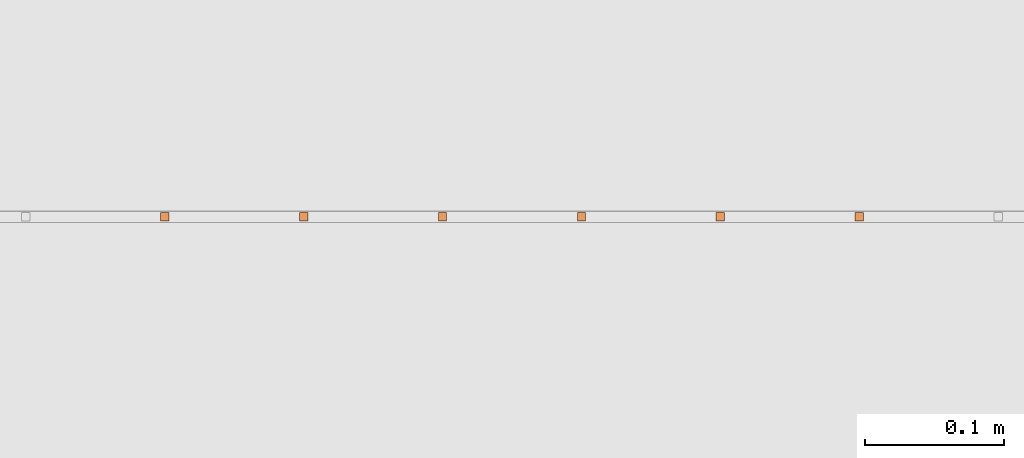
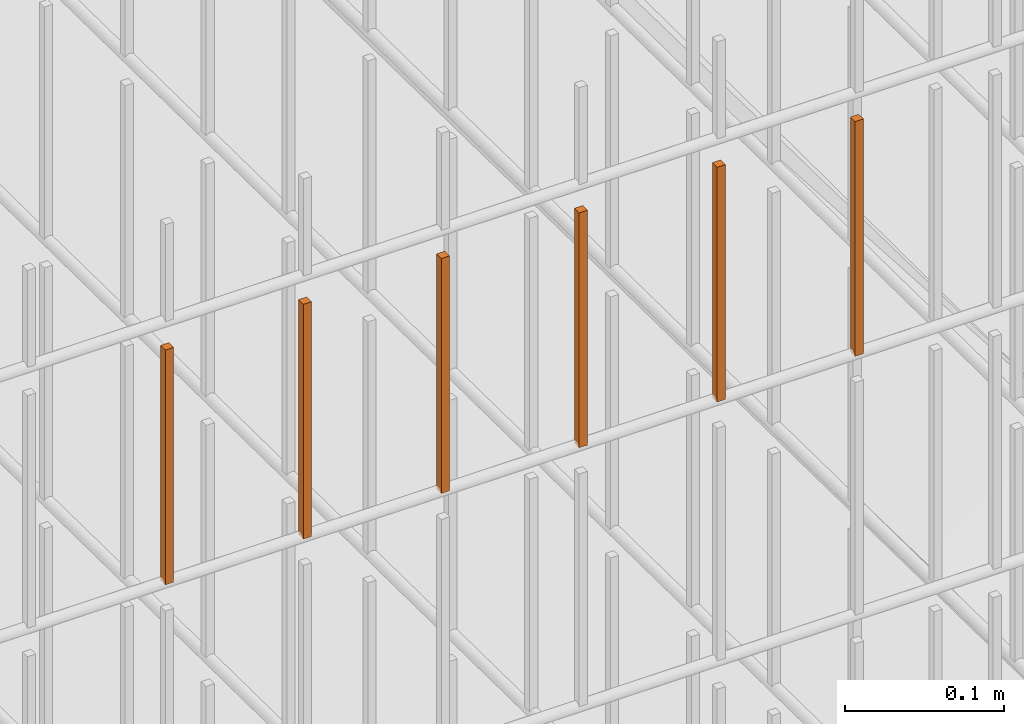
# One storey, part 251 of 1809: 6 proxies, 1 element without a shape of its own.
"""IFC2X3 building model written with IfcOpenShell, lengths in millimetres."""

import ifcopenshell
import ifcopenshell.guid

model = None  # the IFC model being written
_history = None  # IfcOwnerHistory: only IFC2X3 demands one
_inside = {}  # id of a spatial element -> (the spatial element, [elements in it])
_under = {}  # id of a project, library or spatial element -> (it, [spatial elements below it])
_declared = {}  # id of a project -> (the project, [libraries it declares])
_typed = {}  # id of a type object -> (the type object, [elements of that type])
_made_of = {}  # id of a material, layer set ... -> (it, [elements and type objects made of it])


def new_model(schema):
    """Start an empty IFC model of exactly this schema.

    Asked for "IFC4X3", IfcOpenShell would pick the latest addendum, in which some entities
    have other attributes; the version numbers below select the first issue.
    IFC2X3 requires an IfcOwnerHistory on every rooted entity: one is made here for all.
    """
    global model, _history
    if schema == "IFC4X3":
        model = ifcopenshell.file(schema_version=(4, 3, 0, 0))
    else:
        model = ifcopenshell.file(schema=schema)
    _inside.clear()
    _under.clear()
    _declared.clear()
    _typed.clear()
    _made_of.clear()
    _history = None
    if model.schema == "IFC2X3":
        org = make("IfcOrganization", Name="unknown")
        user = make(
            "IfcPersonAndOrganization",
            ThePerson=make("IfcPerson", FamilyName="unknown"),
            TheOrganization=org,
        )
        app = make(
            "IfcApplication",
            ApplicationDeveloper=org,
            Version="unknown",
            ApplicationFullName="unknown",
            ApplicationIdentifier="unknown",
        )
        _history = make(
            "IfcOwnerHistory",
            OwningUser=user,
            OwningApplication=app,
            ChangeAction="ADDED",
            CreationDate=0,
        )
    return model


def make(cls, **values):
    """One entity of the class cls with the attributes given. An attribute that is None is left unset."""
    return model.create_entity(
        cls, **{name: value for name, value in values.items() if value is not None}
    )


def entity(cls, *values):
    """Any entity or typed value of the class cls, its attributes in the order of the schema. None: left unset."""
    e = model.create_entity(cls)
    for i, value in enumerate(values):
        if value is not None:
            e[i] = value
    return e


def rooted(cls, **values):
    """An entity with a GlobalId (a new one), such as an element, a storey or a relation."""
    return make(cls, GlobalId=ifcopenshell.guid.new(), OwnerHistory=_history, **values)


def si_unit(unit_type, name, prefix=None):
    """IfcSIUnit, for example si_unit("LENGTHUNIT", "METRE", prefix="MILLI")."""
    return make("IfcSIUnit", UnitType=unit_type, Prefix=prefix, Name=name)


def converted_unit(unit_type, name, factor, base, dimensions=None, offset=None):
    """IfcConversionBasedUnit, such as the inch: factor (a typed value) times the base unit."""
    return make(
        "IfcConversionBasedUnit"
        if offset is None
        else "IfcConversionBasedUnitWithOffset",
        ConversionOffset=offset,
        Dimensions=None
        if dimensions is None
        else entity("IfcDimensionalExponents", *dimensions),
        UnitType=unit_type,
        Name=name,
        ConversionFactor=make(
            "IfcMeasureWithUnit", ValueComponent=factor, UnitComponent=base
        ),
    )


def derived_unit(unit_type, elements):
    """IfcDerivedUnit: a product of units, each with its exponent."""
    return make(
        "IfcDerivedUnit",
        Elements=[
            make("IfcDerivedUnitElement", Unit=unit, Exponent=power)
            for unit, power in elements
        ],
        UnitType=unit_type,
    )


def money_unit(currency):
    """IfcMonetaryUnit."""
    return make("IfcMonetaryUnit", Currency=currency)


def assignment(units):
    """IfcUnitAssignment: the units of a project."""
    return None if units is None else make("IfcUnitAssignment", Units=units)


def point(xyz):
    """IfcCartesianPoint."""
    return None if xyz is None else make("IfcCartesianPoint", Coordinates=xyz)


def direction(xyz):
    """IfcDirection."""
    return None if xyz is None else make("IfcDirection", DirectionRatios=xyz)


def frame(location, z_axis=None, x_axis=None):
    """IfcAxis2Placement3D, a coordinate frame: its origin and axes. An axis left out is left unset."""
    return make(
        "IfcAxis2Placement3D",
        Location=point(location),
        Axis=direction(z_axis),
        RefDirection=direction(x_axis),
    )


def origin_with_axes():
    """The frame at (0, 0, 0) with the z axis (0, 0, 1) and the x axis (1, 0, 0) written out."""
    return frame((0.0, 0.0, 0.0), z_axis=(0.0, 0.0, 1.0), x_axis=(1.0, 0.0, 0.0))


def place(relative_to, where):
    """IfcLocalPlacement: puts the frame where relative to a parent placement (None: the world)."""
    return make(
        "IfcLocalPlacement", PlacementRelTo=relative_to, RelativePlacement=where
    )


def context(
    kind, dimensions, precision=None, world=None, true_north=None, identifier=None
):
    """IfcGeometricRepresentationContext, for example the 3D "Model" context."""
    return make(
        "IfcGeometricRepresentationContext",
        ContextIdentifier=identifier,
        ContextType=kind,
        CoordinateSpaceDimension=dimensions,
        Precision=precision,
        WorldCoordinateSystem=world,
        TrueNorth=true_north,
    )


def subcontext(parent, identifier, kind, view, scale=None):
    """IfcGeometricRepresentationSubContext, for example "Body" below "Model"."""
    return make(
        "IfcGeometricRepresentationSubContext",
        ContextIdentifier=identifier,
        ContextType=kind,
        ParentContext=parent,
        TargetScale=scale,
        TargetView=view,
    )


def project(units=None, contexts=None):
    """IfcProject with its units and contexts."""
    return rooted(
        "IfcProject",
        Name="project",
        RepresentationContexts=contexts,
        UnitsInContext=assignment(units),
    )


def spatial(cls, under=None, at=None, **own):
    """A site, building, storey or space (cls), placed at a placement, below another one or the project."""
    s = rooted(cls, ObjectPlacement=at, **own)
    if under is not None:
        _under.setdefault(under.id(), (under, []))[1].append(s)
    return s


def faces_of(points, faces, orient=None, outer=None):
    """IfcFace entities. A face is a list of loops; a loop is a list of indices into points, from 0.

    orient and outer hold one flag for each loop. By default every Orientation is true, the
    first loop of a face is its IfcFaceOuterBound and the others are IfcFaceBound.
    """
    made = []
    for i, loops in enumerate(faces):
        bounds = []
        for j, loop in enumerate(loops):
            is_outer = j == 0 if outer is None else outer[i][j]
            bounds.append(
                make(
                    "IfcFaceOuterBound" if is_outer else "IfcFaceBound",
                    Bound=make("IfcPolyLoop", Polygon=[points[k] for k in loop]),
                    Orientation=True if orient is None else orient[i][j],
                )
            )
        made.append(make("IfcFace", Bounds=bounds))
    return made


def faceted_brep(points, faces, orient=None, outer=None, voids=None):
    """IfcFacetedBrep: a solid bounded by flat faces; with voids (closed shells), ...WithVoids."""
    shared = [point(p) for p in points]
    hull = make("IfcClosedShell", CfsFaces=faces_of(shared, faces, orient, outer))
    if voids is None:
        return make("IfcFacetedBrep", Outer=hull)
    return make(
        "IfcFacetedBrepWithVoids",
        Outer=hull,
        Voids=[
            make(cls, CfsFaces=faces_of(shared, fs, o, b)) for cls, fs, o, b in voids
        ],
    )


def shape(context_of_items, identifier, shape_type, items):
    """IfcShapeRepresentation: the items that make up one representation, for example the "Body"."""
    return make(
        "IfcShapeRepresentation",
        ContextOfItems=context_of_items,
        RepresentationIdentifier=identifier,
        RepresentationType=shape_type,
        Items=items,
    )


def source(mapping_origin, context_of_items, identifier, shape_type, items):
    """IfcRepresentationMap: a shape defined once, which mapped items show again and again."""
    return make(
        "IfcRepresentationMap",
        MappingOrigin=mapping_origin,
        MappedRepresentation=shape(context_of_items, identifier, shape_type, items),
    )


def transform(
    local_origin,
    x_axis=None,
    y_axis=None,
    z_axis=None,
    scale=None,
    scale2=None,
    scale3=None,
    uniform=True,
):
    """IfcCartesianTransformationOperator3D, or its non-uniform kind. x_axis, y_axis, z_axis: its Axis1, 2, 3."""
    if uniform:
        return make(
            "IfcCartesianTransformationOperator3D",
            Axis1=direction(x_axis),
            Axis2=direction(y_axis),
            LocalOrigin=point(local_origin),
            Scale=scale,
            Axis3=direction(z_axis),
        )
    return make(
        "IfcCartesianTransformationOperator3DnonUniform",
        Axis1=direction(x_axis),
        Axis2=direction(y_axis),
        LocalOrigin=point(local_origin),
        Scale=scale,
        Axis3=direction(z_axis),
        Scale2=scale2,
        Scale3=scale3,
    )


def mapped(mapping_source, mapping_target):
    """IfcMappedItem: shows the shape of a source again, moved by a transform."""
    return make(
        "IfcMappedItem", MappingSource=mapping_source, MappingTarget=mapping_target
    )


def material(Name=None, Category=None):
    """IfcMaterial."""
    return make("IfcMaterial", Name=Name, Category=Category)


def made_of(thing, what):
    """Note that an element or type object is made of a material, layer set ...; save() writes the relation."""
    if what is not None:
        _made_of.setdefault(what.id(), (what, []))[1].append(thing)
    return thing


def type_object(cls, material=None, **own):
    """A type object (cls), such as IfcWallType, which elements share."""
    return made_of(rooted(cls, **own), material)


def element(
    cls,
    number,
    at=None,
    inside=None,
    cuts=None,
    type_object=None,
    material=None,
    context=None,
    identifier="Body",
    shape_type=None,
    held_by="IfcProductDefinitionShape",
    body=None,
    shapes=None,
    **own,
):
    """One element of the class cls, such as IfcWall. Its Tag is "e" and its number.

    at: its placement. inside: the storey or other place that contains it. cuts: it is an
    opening in that element (IfcRelVoidsElement). A single representation is given by context,
    identifier, shape_type and body (its items); several are given by shapes. held_by: the class
    of the entity that holds the representations. save() writes the other relations.
    """
    e = rooted(cls, Tag="e%d" % number, ObjectPlacement=at, **own)
    if body is not None:
        shapes = [shape(context, identifier, shape_type, body)]
    if shapes is not None:
        e.Representation = make(held_by, Representations=shapes)
    if inside is not None:
        _inside.setdefault(inside.id(), (inside, []))[1].append(e)
    if cuts is not None:
        rooted(
            "IfcRelVoidsElement", RelatingBuildingElement=cuts, RelatedOpeningElement=e
        )
    if type_object is not None:
        _typed.setdefault(type_object.id(), (type_object, []))[1].append(e)
    return made_of(e, material)


def aggregate(whole, parts):
    """IfcRelAggregates: a whole, such as a stair, and the parts it consists of."""
    return rooted("IfcRelAggregates", RelatingObject=whole, RelatedObjects=parts)


def save(model, path):
    """Write the relations noted so far, then the file.

    IfcRelAggregates (storeys below a building ...), IfcRelContainedInSpatialStructure (elements
    in a storey), IfcRelDefinesByType, IfcRelAssociatesMaterial and IfcRelDeclares: one each for
    every whole, place, type object, material and project.
    """
    for whole, parts in _under.values():
        aggregate(whole, parts)
    for where, things in _inside.values():
        rooted(
            "IfcRelContainedInSpatialStructure",
            RelatedElements=things,
            RelatingStructure=where,
        )
    for kind, things in _typed.values():
        rooted("IfcRelDefinesByType", RelatedObjects=things, RelatingType=kind)
    for what, things in _made_of.values():
        rooted("IfcRelAssociatesMaterial", RelatedObjects=things, RelatingMaterial=what)
    for by, libraries in _declared.values():
        rooted("IfcRelDeclares", RelatingContext=by, RelatedDefinitions=libraries)
    model.write(path)


model = new_model("IFC2X3")

# Units and contexts
model_context = context("Model", 3, precision=0.01, world=origin_with_axes(), true_north=direction((0.0, 1.0)))
body_context = subcontext(model_context, "Body", "Model", "MODEL_VIEW")
ifc_project = project(units=[si_unit("LENGTHUNIT", "METRE", prefix="MILLI"), si_unit("AREAUNIT", "SQUARE_METRE"), si_unit("VOLUMEUNIT", "CUBIC_METRE"), converted_unit("PLANEANGLEUNIT", "DEGREE", entity("IfcPlaneAngleMeasure", 0.0174532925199), si_unit("PLANEANGLEUNIT", "RADIAN"), dimensions=[0, 0, 0, 0, 0, 0, 0]), si_unit("SOLIDANGLEUNIT", "STERADIAN"), money_unit("EUR"), converted_unit("TIMEUNIT", "Year", entity("IfcTimeMeasure", 31556926.0), si_unit("TIMEUNIT", "SECOND"), dimensions=[0, 0, 1, 0, 0, 0, 0]), si_unit("MASSUNIT", "GRAM", prefix="KILO"), si_unit("THERMODYNAMICTEMPERATUREUNIT", "DEGREE_CELSIUS"), si_unit("LUMINOUSINTENSITYUNIT", "LUMEN"), si_unit("ENERGYUNIT", "JOULE", prefix="MEGA"), derived_unit("THERMALCONDUCTANCEUNIT", [(si_unit("POWERUNIT", "WATT"), 1), (si_unit("LENGTHUNIT", "METRE"), -1), (si_unit("THERMODYNAMICTEMPERATUREUNIT", "KELVIN"), -1)]), derived_unit("SPECIFICHEATCAPACITYUNIT", [(si_unit("ENERGYUNIT", "JOULE"), 1), (si_unit("MASSUNIT", "GRAM", prefix="KILO"), -1), (si_unit("THERMODYNAMICTEMPERATUREUNIT", "KELVIN"), -1)]), derived_unit("MASSDENSITYUNIT", [(si_unit("MASSUNIT", "GRAM", prefix="KILO"), 1), (si_unit("VOLUMEUNIT", "CUBIC_METRE"), -1)])], contexts=[model_context])

# Site, building, storey
site_placement = place(None, origin_with_axes())
site = spatial("IfcSite", under=ifc_project, at=site_placement, Name="Politse- ja Piirivalveameti ning Päästeameti ühishoone", CompositionType="ELEMENT")
building_placement = place(site_placement, origin_with_axes())
building = spatial("IfcBuilding", under=site, at=building_placement, Name="Politse- ja Piirivalveameti ning Päästeameti ühishoone", CompositionType="ELEMENT")
storey_placement = place(building_placement, origin_with_axes())
storey = spatial("IfcBuildingStorey", under=building, at=storey_placement, Name="Esimene korrus", CompositionType="ELEMENT", Elevation=0.0)

# Proxies
building_element_proxy_type_1 = type_object("IfcBuildingElementProxyType", Name="Railing Type", PredefinedType="NOTDEFINED")
proxy_1_placement = place(storey_placement, frame((-16775.8601056, 25156.7555964, 0.0), z_axis=(0.0, 0.0, 1.0), x_axis=(1.0, 0.0, 0.0)))
proxy_1 = element("IfcBuildingElementProxy", 1, at=proxy_1_placement, inside=storey, type_object=building_element_proxy_type_1, Name="KENNELI PIIRE")
ifc_material = material(Name="Teras - Konstruktsioon")
building_element_proxy_type_2 = type_object("IfcBuildingElementProxyType", Name="IfcBuildingElementProxy", PredefinedType="NOTDEFINED")
shared_shape = source(origin_with_axes(), body_context, "Body", "Brep", [
    faceted_brep([(3.0, 3.0, 0.0), (-3.0, 3.0, 0.0), (-3.0, 3.0, 180.000012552), (3.0, 3.0, 180.000012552), (3.0, -3.0, 0.0), (-3.0, -3.0, 0.0), (-3.0, -3.0, 180.000012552), (3.0, -3.0, 180.000012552)], [[[0, 1, 2, 3]], [[0, 4, 5, 1]], [[1, 5, 6, 2]], [[3, 2, 6, 7]], [[4, 0, 3, 7]], [[5, 4, 7, 6]]]),
])
proxy_2_placement = place(proxy_1_placement, frame((-682.266550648, -16068.8402798, 2203.99998745), z_axis=(0.0, 0.0, 1.0), x_axis=(1.0, 0.0, 0.0)))
proxy_2 = element("IfcBuildingElementProxy", 2, at=proxy_2_placement, type_object=building_element_proxy_type_2, material=ifc_material, Name="BALUSTER - 001", context=body_context, shape_type="MappedRepresentation", body=[
    mapped(shared_shape, transform((0.0, 0.0, 0.0), x_axis=(0.0, -1.0, 0.0), y_axis=(1.0, 0.0, 0.0), z_axis=(0.0, 0.0, 1.0))),
])
proxy_3_placement = place(proxy_1_placement, frame((-582.266550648, -16068.8402798, 2203.99998745), z_axis=(0.0, 0.0, 1.0), x_axis=(1.0, 0.0, 0.0)))
proxy_3 = element("IfcBuildingElementProxy", 3, at=proxy_3_placement, type_object=building_element_proxy_type_2, material=ifc_material, Name="BALUSTER - 001", context=body_context, shape_type="MappedRepresentation", body=[
    mapped(shared_shape, transform((0.0, 0.0, 0.0), x_axis=(0.0, -1.0, 0.0), y_axis=(1.0, 0.0, 0.0), z_axis=(0.0, 0.0, 1.0))),
])
proxy_4_placement = place(proxy_1_placement, frame((-482.266550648, -16068.8402798, 2203.99998745), z_axis=(0.0, 0.0, 1.0), x_axis=(1.0, 0.0, 0.0)))
proxy_4 = element("IfcBuildingElementProxy", 4, at=proxy_4_placement, type_object=building_element_proxy_type_2, material=ifc_material, Name="BALUSTER - 001", context=body_context, shape_type="MappedRepresentation", body=[
    mapped(shared_shape, transform((0.0, 0.0, 0.0), x_axis=(0.0, -1.0, 0.0), y_axis=(1.0, 0.0, 0.0), z_axis=(0.0, 0.0, 1.0))),
])
proxy_5_placement = place(proxy_1_placement, frame((-382.266550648, -16068.8402798, 2203.99998745), z_axis=(0.0, 0.0, 1.0), x_axis=(1.0, 0.0, 0.0)))
proxy_5 = element("IfcBuildingElementProxy", 5, at=proxy_5_placement, type_object=building_element_proxy_type_2, material=ifc_material, Name="BALUSTER - 001", context=body_context, shape_type="MappedRepresentation", body=[
    mapped(shared_shape, transform((0.0, 0.0, 0.0), x_axis=(0.0, -1.0, 0.0), y_axis=(1.0, 0.0, 0.0), z_axis=(0.0, 0.0, 1.0))),
])
proxy_6_placement = place(proxy_1_placement, frame((-282.266550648, -16068.8402798, 2203.99998745), z_axis=(0.0, 0.0, 1.0), x_axis=(1.0, 0.0, 0.0)))
proxy_6 = element("IfcBuildingElementProxy", 6, at=proxy_6_placement, type_object=building_element_proxy_type_2, material=ifc_material, Name="BALUSTER - 001", context=body_context, shape_type="MappedRepresentation", body=[
    mapped(shared_shape, transform((0.0, 0.0, 0.0), x_axis=(0.0, -1.0, 0.0), y_axis=(1.0, 0.0, 0.0), z_axis=(0.0, 0.0, 1.0))),
])
proxy_7_placement = place(proxy_1_placement, frame((-182.266550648, -16068.8402798, 2203.99998745), z_axis=(0.0, 0.0, 1.0), x_axis=(1.0, 0.0, 0.0)))
proxy_7 = element("IfcBuildingElementProxy", 7, at=proxy_7_placement, type_object=building_element_proxy_type_2, material=ifc_material, Name="BALUSTER - 001", context=body_context, shape_type="MappedRepresentation", body=[
    mapped(shared_shape, transform((0.0, 0.0, 0.0), x_axis=(0.0, -1.0, 0.0), y_axis=(1.0, 0.0, 0.0), z_axis=(0.0, 0.0, 1.0))),
])
aggregate(proxy_1, [proxy_2, proxy_3, proxy_4, proxy_5, proxy_6, proxy_7])

save(model, "model.ifc")
